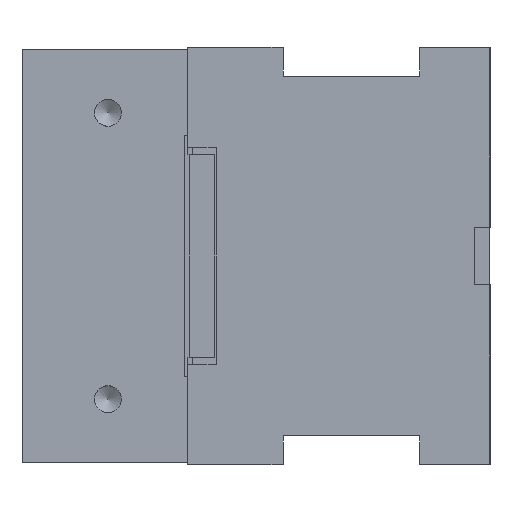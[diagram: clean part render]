
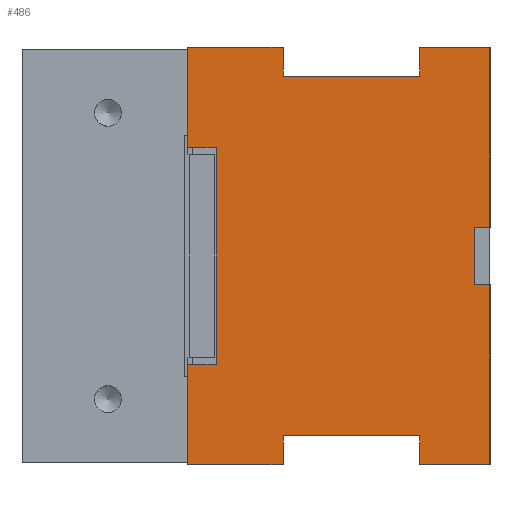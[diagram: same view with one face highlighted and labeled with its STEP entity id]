
A CAD part, left-side view. The second image highlights one B-rep face of the part: STEP entity #486.
In plain terms, the highlighted planar face has unit normal (-1, 0, 0).
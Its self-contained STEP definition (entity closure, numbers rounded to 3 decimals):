
#486=ADVANCED_FACE('',(#2286),#2288,.F.);
#2286=FACE_BOUND('',#2287,.T.);
#2287=EDGE_LOOP('',(#3802,#3803,#3804,#3805,#3806,#3807,#3808,#3809,#3810,#3811,
#3812,#3813,#3814,#3815,#3816,#3817,#3818,#3819,#3820,#3821));
#2288=PLANE('',#2289);
#2289=AXIS2_PLACEMENT_3D('',#2290,#2291,#2292);
#2290=CARTESIAN_POINT('',(-205.,0.,0.));
#2291=DIRECTION('',(1.,0.,-0.));
#2292=DIRECTION('',(-0.,0.,-1.));
#3802=ORIENTED_EDGE('',*,*,#4659,.T.);
#3803=ORIENTED_EDGE('',*,*,#4615,.F.);
#3804=ORIENTED_EDGE('',*,*,#4658,.F.);
#3805=ORIENTED_EDGE('',*,*,#4660,.F.);
#3806=ORIENTED_EDGE('',*,*,#4661,.F.);
#3807=ORIENTED_EDGE('',*,*,#4662,.F.);
#3808=ORIENTED_EDGE('',*,*,#4663,.F.);
#3809=ORIENTED_EDGE('',*,*,#4664,.F.);
#3810=ORIENTED_EDGE('',*,*,#4665,.F.);
#3811=ORIENTED_EDGE('',*,*,#4666,.F.);
#3812=ORIENTED_EDGE('',*,*,#4667,.F.);
#3813=ORIENTED_EDGE('',*,*,#4668,.F.);
#3814=ORIENTED_EDGE('',*,*,#4669,.F.);
#3815=ORIENTED_EDGE('',*,*,#4670,.F.);
#3816=ORIENTED_EDGE('',*,*,#4671,.F.);
#3817=ORIENTED_EDGE('',*,*,#4672,.F.);
#3818=ORIENTED_EDGE('',*,*,#4673,.F.);
#3819=ORIENTED_EDGE('',*,*,#4627,.F.);
#3820=ORIENTED_EDGE('',*,*,#4674,.F.);
#3821=ORIENTED_EDGE('',*,*,#4675,.F.);
#4615=EDGE_CURVE('',#5153,#5155,#5156,.T.);
#4627=EDGE_CURVE('',#5177,#5179,#5180,.T.);
#4658=EDGE_CURVE('',#5235,#5153,#5237,.T.);
#4659=EDGE_CURVE('',#5238,#5155,#5239,.T.);
#4660=EDGE_CURVE('',#5240,#5235,#5241,.T.);
#4661=EDGE_CURVE('',#5242,#5240,#5243,.T.);
#4662=EDGE_CURVE('',#5244,#5242,#5245,.T.);
#4663=EDGE_CURVE('',#5246,#5244,#5247,.T.);
#4664=EDGE_CURVE('',#5248,#5246,#5249,.T.);
#4665=EDGE_CURVE('',#5250,#5248,#5251,.T.);
#4666=EDGE_CURVE('',#5252,#5250,#5253,.T.);
#4667=EDGE_CURVE('',#5254,#5252,#5255,.T.);
#4668=EDGE_CURVE('',#5256,#5254,#5257,.T.);
#4669=EDGE_CURVE('',#5258,#5256,#5259,.T.);
#4670=EDGE_CURVE('',#5260,#5258,#5261,.T.);
#4671=EDGE_CURVE('',#5262,#5260,#5263,.T.);
#4672=EDGE_CURVE('',#5264,#5262,#5265,.T.);
#4673=EDGE_CURVE('',#5179,#5264,#5266,.T.);
#4674=EDGE_CURVE('',#5267,#5177,#5268,.T.);
#4675=EDGE_CURVE('',#5238,#5267,#5269,.T.);
#5153=VERTEX_POINT('',#6571);
#5155=VERTEX_POINT('',#6575);
#5156=LINE('',#6576,#6577);
#5177=VERTEX_POINT('',#6623);
#5179=VERTEX_POINT('',#6627);
#5180=LINE('',#6628,#6629);
#5235=VERTEX_POINT('',#6752);
#5237=LINE('',#6756,#6757);
#5238=VERTEX_POINT('',#6759);
#5239=LINE('',#6760,#6761);
#5240=VERTEX_POINT('',#6763);
#5241=LINE('',#6764,#6765);
#5242=VERTEX_POINT('',#6767);
#5243=LINE('',#6768,#6769);
#5244=VERTEX_POINT('',#6771);
#5245=LINE('',#6772,#6773);
#5246=VERTEX_POINT('',#6775);
#5247=LINE('',#6776,#6777);
#5248=VERTEX_POINT('',#6779);
#5249=LINE('',#6780,#6781);
#5250=VERTEX_POINT('',#6783);
#5251=LINE('',#6784,#6785);
#5252=VERTEX_POINT('',#6787);
#5253=LINE('',#6788,#6789);
#5254=VERTEX_POINT('',#6791);
#5255=LINE('',#6792,#6793);
#5256=VERTEX_POINT('',#6795);
#5257=LINE('',#6796,#6797);
#5258=VERTEX_POINT('',#6799);
#5259=LINE('',#6800,#6801);
#5260=VERTEX_POINT('',#6803);
#5261=LINE('',#6804,#6805);
#5262=VERTEX_POINT('',#6807);
#5263=LINE('',#6808,#6809);
#5264=VERTEX_POINT('',#6811);
#5265=LINE('',#6812,#6813);
#5266=LINE('',#6815,#6816);
#5267=VERTEX_POINT('',#6818);
#5268=LINE('',#6819,#6820);
#5269=LINE('',#6822,#6823);
#6571=CARTESIAN_POINT('',(-205.,0.,65.5));
#6575=CARTESIAN_POINT('',(-205.,-0.,9.));
#6576=CARTESIAN_POINT('',(-205.,0.,65.5));
#6577=VECTOR('',#6578,1.);
#6578=DIRECTION('',(0.,0.,-1.));
#6623=CARTESIAN_POINT('',(-205.,0.,-9.));
#6627=CARTESIAN_POINT('',(-205.,0.,-65.5));
#6628=CARTESIAN_POINT('',(-205.,0.,-9.));
#6629=VECTOR('',#6630,1.);
#6630=DIRECTION('',(0.,0.,-1.));
#6752=CARTESIAN_POINT('',(-205.,22.,65.5));
#6756=CARTESIAN_POINT('',(-205.,22.,65.5));
#6757=VECTOR('',#6758,1.);
#6758=DIRECTION('',(0.,-1.,0.));
#6759=CARTESIAN_POINT('',(-205.,5.,9.));
#6760=CARTESIAN_POINT('',(-205.,5.,9.));
#6761=VECTOR('',#6762,1.);
#6762=DIRECTION('',(0.,-1.,0.));
#6763=CARTESIAN_POINT('',(-205.,22.,56.5));
#6764=CARTESIAN_POINT('',(-205.,22.,56.5));
#6765=VECTOR('',#6766,1.);
#6766=DIRECTION('',(0.,0.,1.));
#6767=CARTESIAN_POINT('',(-205.,65.,56.5));
#6768=CARTESIAN_POINT('',(-205.,65.,56.5));
#6769=VECTOR('',#6770,1.);
#6770=DIRECTION('',(0.,-1.,0.));
#6771=CARTESIAN_POINT('',(-205.,65.,65.5));
#6772=CARTESIAN_POINT('',(-205.,65.,65.5));
#6773=VECTOR('',#6774,1.);
#6774=DIRECTION('',(0.,0.,-1.));
#6775=CARTESIAN_POINT('',(-205.,95.,65.5));
#6776=CARTESIAN_POINT('',(-205.,95.,65.5));
#6777=VECTOR('',#6778,1.);
#6778=DIRECTION('',(0.,-1.,0.));
#6779=CARTESIAN_POINT('',(-205.,95.,34.));
#6780=CARTESIAN_POINT('',(-205.,95.,34.));
#6781=VECTOR('',#6782,1.);
#6782=DIRECTION('',(0.,0.,1.));
#6783=CARTESIAN_POINT('',(-205.,86.,34.));
#6784=CARTESIAN_POINT('',(-205.,86.,34.));
#6785=VECTOR('',#6786,1.);
#6786=DIRECTION('',(0.,1.,0.));
#6787=CARTESIAN_POINT('',(-205.,86.,-34.));
#6788=CARTESIAN_POINT('',(-205.,86.,-34.));
#6789=VECTOR('',#6790,1.);
#6790=DIRECTION('',(0.,0.,1.));
#6791=CARTESIAN_POINT('',(-205.,95.,-34.));
#6792=CARTESIAN_POINT('',(-205.,95.,-34.));
#6793=VECTOR('',#6794,1.);
#6794=DIRECTION('',(0.,-1.,0.));
#6795=CARTESIAN_POINT('',(-205.,95.,-65.5));
#6796=CARTESIAN_POINT('',(-205.,95.,-65.5));
#6797=VECTOR('',#6798,1.);
#6798=DIRECTION('',(0.,0.,1.));
#6799=CARTESIAN_POINT('',(-205.,65.,-65.5));
#6800=CARTESIAN_POINT('',(-205.,65.,-65.5));
#6801=VECTOR('',#6802,1.);
#6802=DIRECTION('',(0.,1.,0.));
#6803=CARTESIAN_POINT('',(-205.,65.,-56.5));
#6804=CARTESIAN_POINT('',(-205.,65.,-56.5));
#6805=VECTOR('',#6806,1.);
#6806=DIRECTION('',(0.,0.,-1.));
#6807=CARTESIAN_POINT('',(-205.,22.,-56.5));
#6808=CARTESIAN_POINT('',(-205.,22.,-56.5));
#6809=VECTOR('',#6810,1.);
#6810=DIRECTION('',(0.,1.,0.));
#6811=CARTESIAN_POINT('',(-205.,22.,-65.5));
#6812=CARTESIAN_POINT('',(-205.,22.,-65.5));
#6813=VECTOR('',#6814,1.);
#6814=DIRECTION('',(0.,0.,1.));
#6815=CARTESIAN_POINT('',(-205.,0.,-65.5));
#6816=VECTOR('',#6817,1.);
#6817=DIRECTION('',(0.,1.,0.));
#6818=CARTESIAN_POINT('',(-205.,5.,-9.));
#6819=CARTESIAN_POINT('',(-205.,5.,-9.));
#6820=VECTOR('',#6821,1.);
#6821=DIRECTION('',(0.,-1.,0.));
#6822=CARTESIAN_POINT('',(-205.,5.,9.));
#6823=VECTOR('',#6824,1.);
#6824=DIRECTION('',(0.,0.,-1.));
